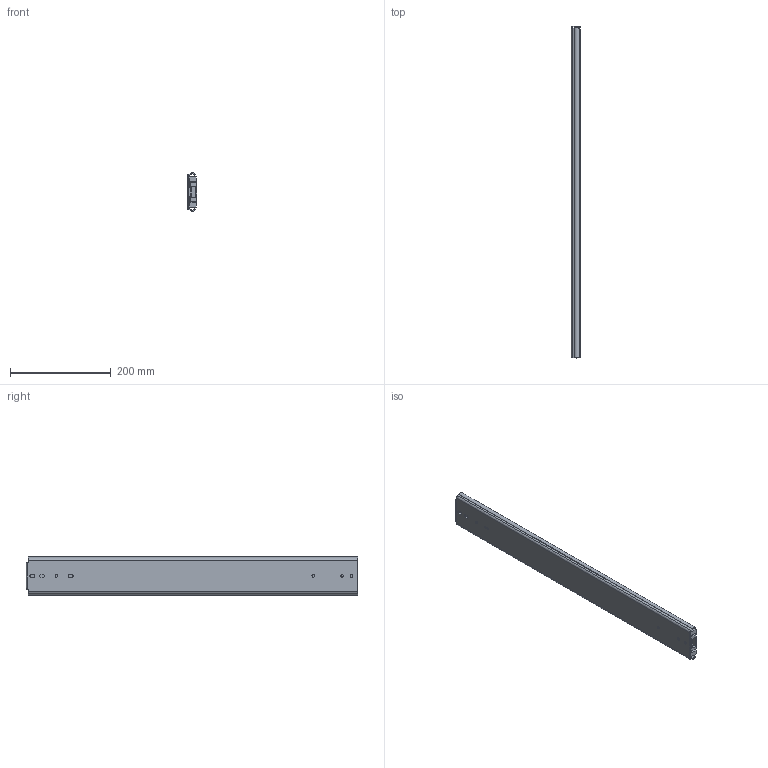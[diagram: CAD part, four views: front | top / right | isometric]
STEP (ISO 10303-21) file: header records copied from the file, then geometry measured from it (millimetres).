
FILE_DESCRIPTION(/* description */ ('Unknown'),/* implementation_level */ '2;1');
FILE_NAME(/* name */ '76J01-26 close',/* time_stamp */ '2024-07-26T15:50:26+08:00',/* author */ ('Unknown'),/* organization */ ('Unknown'),/* preprocessor_version */ 'ST-DEVELOPER v18.104',/* originating_system */ 'Solid Edge',/* authorisation */ 'Unknown');
FILE_SCHEMA (('AUTOMOTIVE_DESIGN {1 0 10303 214 3 1 1}'));
Length unit declared in the file: millimetre
Products named in the file (4): 76J01-26 close; 76J01 26 inch 內 ; 76J01 26 吋
Assembly tree (3 placements, depth 2):
  76J01-26 close
    76J01 26 inch 內 
    76J01 26 吋
    76J01 26 吋
Bounding box: 19.3 x 660.4 x 76.76 mm (x, y, z)
Volume: 516208.2 mm3; surface area: 321941.7 mm2
Topology: 3 solids, 3 shells, 188 faces, 575 edges, 387 vertices
Faces by surface type: plane 104, cylinder 84
Full cylindrical faces by diameter (mm): 5.2 x9, 7.1 x2
Entity records: 6871 total; most frequent: CARTESIAN_POINT 1124, ORIENTED_EDGE 1106, DIRECTION 1105, EDGE_CURVE 553, LINE 383, VECTOR 383, VERTEX_POINT 376, AXIS2_PLACEMENT_3D 361
